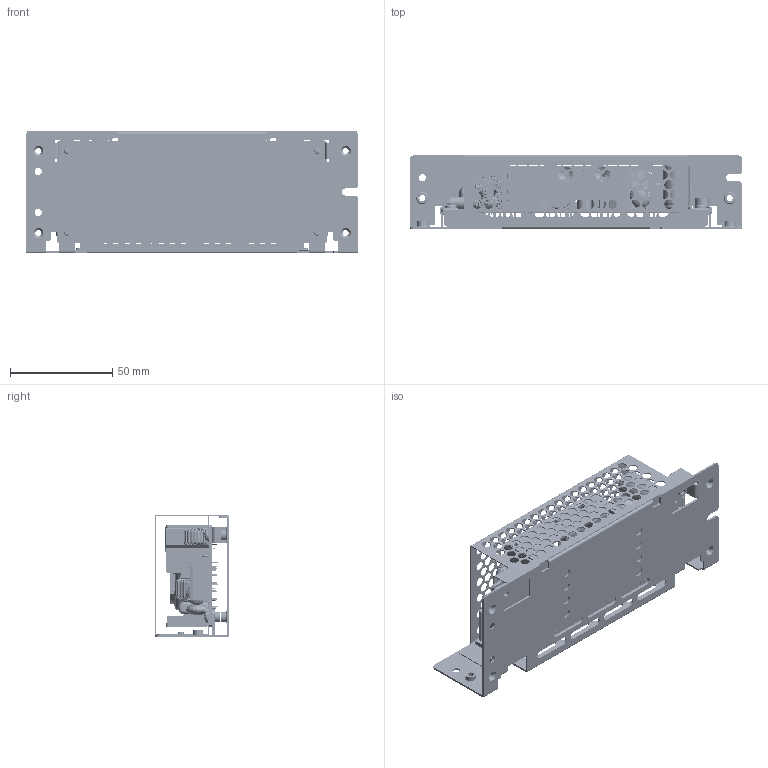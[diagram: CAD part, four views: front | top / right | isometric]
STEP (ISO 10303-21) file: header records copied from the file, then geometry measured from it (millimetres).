
FILE_DESCRIPTION((''),'2;1');
FILE_NAME('PRT0001','2012-11-15T',('YVONNE.CHEN'),(''),'PRO/ENGINEER BY PARAMETRIC TECHNOLOGY CORPORATION, 2010280','PRO/ENGINEER BY PARAMETRIC TECHNOLOGY CORPORATION, 2010280','');
FILE_SCHEMA(('CONFIG_CONTROL_DESIGN'));
Products named in the file (1): PRT0001
Bounding box: 162 x 36 x 60 mm (x, y, z)
Volume: 59924.5 mm3; surface area: 88524.7 mm2
Topology: 9 solids, 33 shells, 3925 faces, 10177 edges, 6129 vertices
Faces by surface type: cylinder 1774, plane 1123, torus 762, cone 174, bspline 60, revolution 16, sphere 16
Entity records: 133065 total; most frequent: CARTESIAN_POINT 32983, DIRECTION 22505, ORIENTED_EDGE 20138, EDGE_CURVE 10137, AXIS2_PLACEMENT_3D 8972, VERTEX_POINT 6129, CIRCLE 5122, EDGE_LOOP 4790
